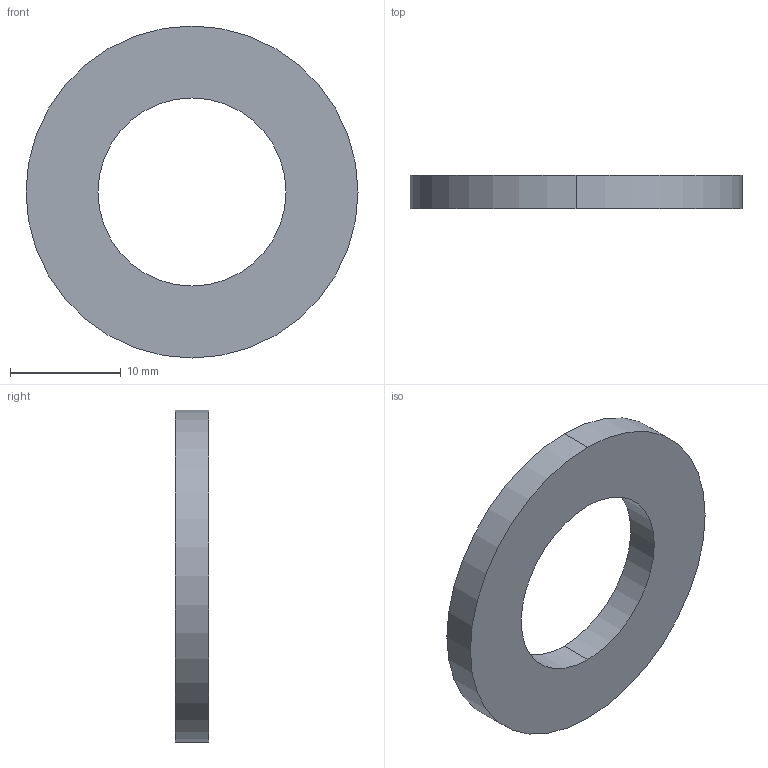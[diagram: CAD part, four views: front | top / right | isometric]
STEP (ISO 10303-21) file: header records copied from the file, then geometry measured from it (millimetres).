
FILE_DESCRIPTION (( 'STEP AP203' ), '1' );
FILE_NAME ('P0330.160-ZP.step', '2018-07-08T17:20:01', ( '' ), ( '' ), 'SwSTEP 2.0', 'SolidWorks 2017', '' );
FILE_SCHEMA (( 'CONFIG_CONTROL_DESIGN' ));
Length unit declared in the file: millimetre
Products named in the file (1): P0330.160-ZP
Bounding box: 30 x 3 x 30 mm (x, y, z)
Volume: 1439.6 mm3; surface area: 1402.7 mm2
Topology: 1 solids, 1 shells, 6 faces, 12 edges, 8 vertices
Faces by surface type: cylinder 4, plane 2
Entity records: 245 total; most frequent: DIRECTION 34, CARTESIAN_POINT 27, ORIENTED_EDGE 24, AXIS2_PLACEMENT_3D 15, EDGE_CURVE 12, PERSON_AND_ORGANIZATION 8, VERTEX_POINT 8, CIRCLE 8
